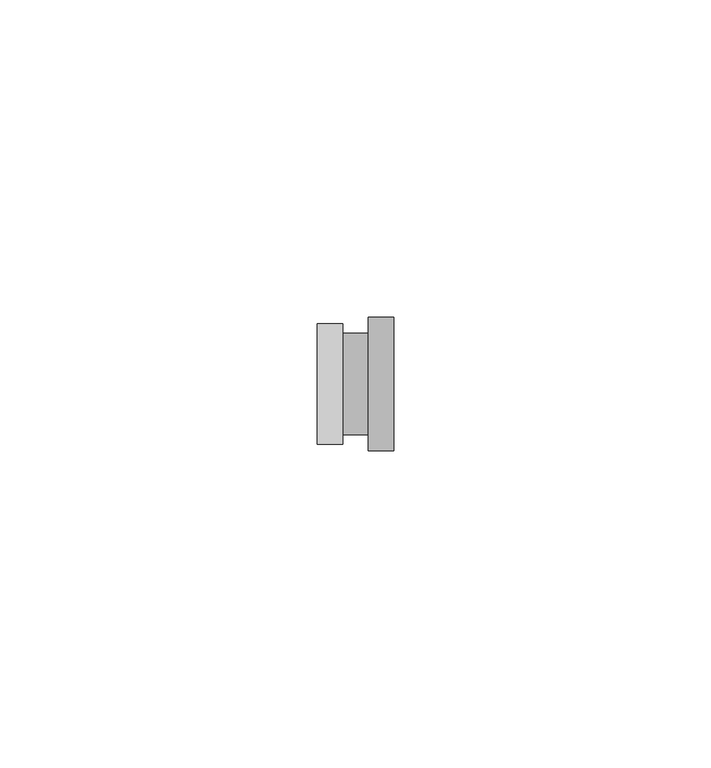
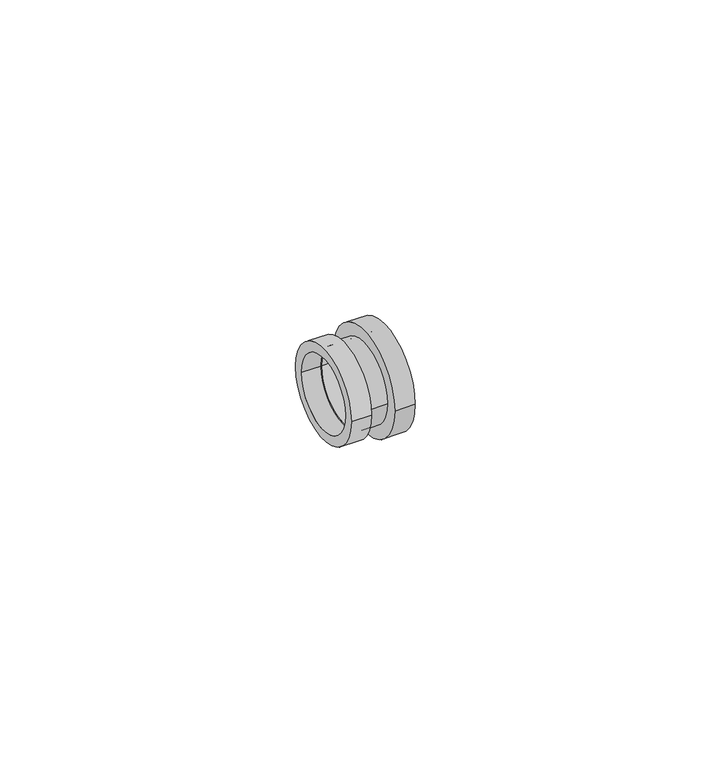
"""IFC4 building model written with IfcOpenShell, lengths in millimetres: pipe fitting geometry, БИР ПЕКС_НПР_Соединитель_Медь : Соединитель медь (пайка) — ПЕКС."""

from ifc_helpers import new_model, si_unit, point, frame, origin, origin_2d, place, context, project, spatial, circle_curve, trimmed, segment, composite_curve, outline, extrude, source, transform, mapped, element, save


def pipe_fitting_e6444bae(model_context):
    return source(origin(), model_context, "Body", "SweptSolid", [
        extrude(outline(composite_curve([segment(trimmed(circle_curve(origin_2d(), 8.0), [point((-8.0, 0.0))], [point((8.0, 0.0))], False, "CARTESIAN"), True, "CONTINUOUS"), segment(trimmed(circle_curve(origin_2d(), 8.0), [point((8.0, 0.0))], [point((-8.0, 0.0))], False, "CARTESIAN"), True, "CONTINUOUS")], self_intersect=False), holes=[composite_curve([segment(trimmed(circle_curve(origin_2d(), 7.5), [point((-7.5, 0.0))], [point((7.5, 0.0))], True, "CARTESIAN"), True, "CONTINUOUS"), segment(trimmed(circle_curve(origin_2d(), 7.5), [point((7.5, 0.0))], [point((-7.5, 0.0))], True, "CARTESIAN"), True, "CONTINUOUS")], self_intersect=False)]), frame((-2.0, 0.0, 0.0), z_axis=(1.0, 0.0, 0.0), x_axis=(0.0, 1.0, 0.0)), (0.0, 0.0, 1.0), 4.0),
        extrude(outline(composite_curve([segment(trimmed(circle_curve(origin_2d(), 10.5), [point((-10.5, 0.0))], [point((10.5, 0.0))], False, "CARTESIAN"), True, "CONTINUOUS"), segment(trimmed(circle_curve(origin_2d(), 10.5), [point((10.5, 0.0))], [point((-10.5, 0.0))], False, "CARTESIAN"), True, "CONTINUOUS")], self_intersect=False), holes=[composite_curve([segment(trimmed(circle_curve(origin_2d(), 7.5), [point((-7.5, 0.0))], [point((7.5, 0.0))], True, "CARTESIAN"), True, "CONTINUOUS"), segment(trimmed(circle_curve(origin_2d(), 7.5), [point((7.5, 0.0))], [point((-7.5, 0.0))], True, "CARTESIAN"), True, "CONTINUOUS")], self_intersect=False)]), frame((2.0, 0.0, 0.0), z_axis=(1.0, 0.0, 0.0), x_axis=(0.0, 1.0, 0.0)), (0.0, 0.0, 1.0), 4.0),
        extrude(outline(composite_curve([segment(trimmed(circle_curve(origin_2d(), 9.5), [point((-9.5, 0.0))], [point((9.5, 0.0))], False, "CARTESIAN"), True, "CONTINUOUS"), segment(trimmed(circle_curve(origin_2d(), 9.5), [point((9.5, 0.0))], [point((-9.5, 0.0))], False, "CARTESIAN"), True, "CONTINUOUS")], self_intersect=False), holes=[composite_curve([segment(trimmed(circle_curve(origin_2d(), 7.5), [point((-7.5, 0.0))], [point((7.5, 0.0))], True, "CARTESIAN"), True, "CONTINUOUS"), segment(trimmed(circle_curve(origin_2d(), 7.5), [point((7.5, 0.0))], [point((-7.5, 0.0))], True, "CARTESIAN"), True, "CONTINUOUS")], self_intersect=False)]), frame((-6.0, 0.0, 0.0), z_axis=(1.0, 0.0, 0.0), x_axis=(0.0, 1.0, 0.0)), (0.0, 0.0, 1.0), 4.0),
    ])


if __name__ == "__main__":
    model = new_model("IFC4")
    model_context = context("Model", 3, world=origin())
    ifc_project = project(units=[si_unit("LENGTHUNIT", "METRE", prefix="MILLI")], contexts=[model_context])
    site = spatial("IfcSite", under=ifc_project)
    building = spatial("IfcBuilding", under=site)
    placement = place(None, origin())
    pipe_fitting_shape = pipe_fitting_e6444bae(model_context)
    element("IfcPipeFitting", 1, ObjectType="БИР ПЕКС_НПР_Соединитель_Медь : Соединитель медь (пайка) — ПЕКС", at=placement, inside=building, context=model_context, shape_type="MappedRepresentation", body=[
        mapped(pipe_fitting_shape, transform((0.0, 0.0, 0.0), x_axis=(1.0, 0.0, 0.0), y_axis=(0.0, 1.0, 0.0), z_axis=(0.0, 0.0, 1.0))),
    ])
    save(model, "model.ifc")
